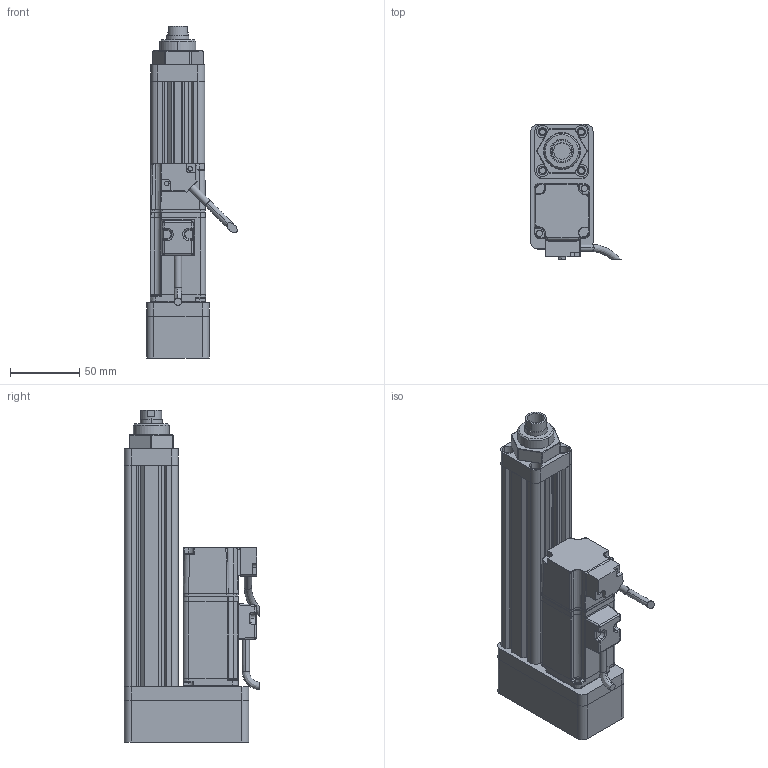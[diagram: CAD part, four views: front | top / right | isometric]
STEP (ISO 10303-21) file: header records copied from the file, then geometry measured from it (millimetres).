
FILE_DESCRIPTION (( 'STEP AP214' ), '1' );
FILE_NAME ('039-S100-D02-B-M4-C2-2.STEP', '2021-02-25T09:00:05', ( '' ), ( '' ), 'SwSTEP 2.0', 'SolidWorks 2018', '' );
FILE_SCHEMA (( 'AUTOMOTIVE_DESIGN' ));
Length unit declared in the file: millimetre
Products named in the file (8): ECMA-CX0401ES-40框號系列機種-100W低慣量系列; CMC039-FL; CMC039-LJB; CMC039-GT; 039-S100-D02-B-M4-C2-2; CMC039-M261; CMC039-DT; CMC039-HXT
Assembly tree (7 placements, depth 2):
  039-S100-D02-B-M4-C2-2
    CMC039-GT
    CMC039-LJB
    CMC039-FL
    CMC039-DT
    ECMA-CX0401ES-40框號系列機種-100W低慣量系列
    CMC039-M261
    CMC039-HXT
Bounding box: 65.34 x 97.89 x 240 mm (x, y, z)
Volume: 413061.4 mm3; surface area: 131704 mm2
Topology: 7 solids, 15 shells, 697 faces, 1812 edges, 1126 vertices
Faces by surface type: cylinder 287, plane 269, bspline 84, cone 57
Entity records: 27531 total; most frequent: CARTESIAN_POINT 11127, ORIENTED_EDGE 3558, DIRECTION 2940, EDGE_CURVE 1779, VERTEX_POINT 1126, AXIS2_PLACEMENT_3D 1026, LINE 888, VECTOR 888
